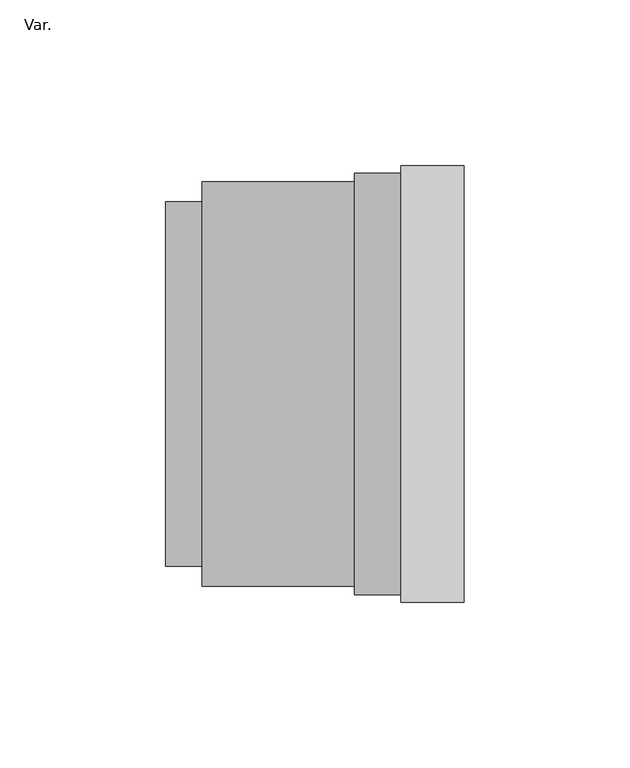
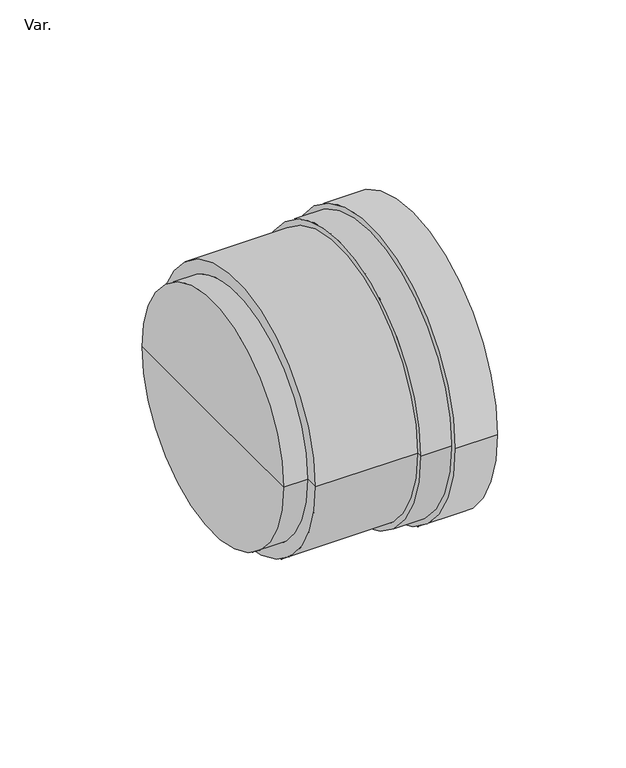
"""IFC4 building model written with IfcOpenShell, lengths in millimetres: pipe fitting geometry, NLRS_52_PIF_UN_HDPE snap socket_Akatherm : Var.."""

from ifc_helpers import new_model, si_unit, point, frame, origin, origin_2d, place, context, project, spatial, circle_curve, trimmed, segment, composite_curve, outline, extrude, source, transform, mapped, element, save
from ifc_brep_helpers import plane_surface, cylinder_surface, advanced_brep


def var_c57503f9(model_context):
    return source(origin(), model_context, "Body", "SolidModel", [
        extrude(outline(composite_curve([segment(trimmed(circle_curve(origin_2d(), 65.75), [point((-65.75, 0.0))], [point((65.75, 0.0))], False, "CARTESIAN"), True, "CONTINUOUS"), segment(trimmed(circle_curve(origin_2d(), 65.75), [point((65.75, 0.0))], [point((-65.75, 0.0))], False, "CARTESIAN"), True, "CONTINUOUS")], self_intersect=False)), frame((61.0, 0.0, 0.0), z_axis=(1.0, 0.0, 0.0), x_axis=(0.0, 1.0, 0.0)), (0.0, 0.0, 1.0), 19.0),
        advanced_brep(
        [(-10.0, 0.0, 0.0), (-10.0, 55.0, 0.0), (-10.0, -55.0, 0.0), (80.0, -63.5, 0.0), (80.0, 63.5, 0.0), (80.0, 0.0, 0.0), (47.0, -63.5, 0.0), (47.0, 63.5, 0.0), (47.0, -61.0, 0.0), (47.0, 61.0, 0.0), (1.0, -61.0, 0.0), (1.0, 61.0, 0.0), (1.0, -55.0, 0.0), (1.0, 55.0, 0.0)],
        [
            (0, 1),
            (1, 2, circle_curve(frame((-10.0, 0.0, 0.0), z_axis=(-1.0, 0.0, 0.0), x_axis=(0.0, 1.0, 0.0)), 55.0)),
            (2, 0),
            (2, 1, circle_curve(frame((-10.0, 0.0, 0.0), z_axis=(-1.0, 0.0, 0.0), x_axis=(0.0, 1.0, 0.0)), 55.0)),
            (3, 4, circle_curve(frame((80.0, 0.0, 0.0), z_axis=(1.0, 0.0, 0.0), x_axis=(0.0, 1.0, 0.0)), 63.5)),
            (4, 5),
            (5, 3),
            (4, 3, circle_curve(frame((80.0, 0.0, 0.0), z_axis=(1.0, 0.0, 0.0), x_axis=(0.0, 1.0, 0.0)), 63.5)),
            (6, 7, circle_curve(frame((47.0, 0.0, 0.0), z_axis=(1.0, 0.0, 0.0), x_axis=(0.0, 1.0, 0.0)), 63.5)),
            (7, 4),
            (3, 6),
            (7, 6, circle_curve(frame((47.0, 0.0, 0.0), z_axis=(1.0, 0.0, 0.0), x_axis=(0.0, 1.0, 0.0)), 63.5)),
            (8, 9, circle_curve(frame((47.0, 0.0, 0.0), z_axis=(1.0, 0.0, 0.0), x_axis=(0.0, 1.0, 0.0)), 61.0)),
            (9, 7),
            (6, 8),
            (9, 8, circle_curve(frame((47.0, 0.0, 0.0), z_axis=(1.0, 0.0, 0.0), x_axis=(0.0, 1.0, 0.0)), 61.0)),
            (10, 11, circle_curve(frame((1.0, 0.0, 0.0), z_axis=(1.0, 0.0, 0.0), x_axis=(0.0, 1.0, 0.0)), 61.0)),
            (11, 9),
            (8, 10),
            (11, 10, circle_curve(frame((1.0, 0.0, 0.0), z_axis=(1.0, 0.0, 0.0), x_axis=(0.0, 1.0, 0.0)), 61.0)),
            (12, 13, circle_curve(frame((1.0, 0.0, 0.0), z_axis=(1.0, 0.0, 0.0), x_axis=(0.0, 1.0, 0.0)), 55.0)),
            (13, 11),
            (10, 12),
            (13, 12, circle_curve(frame((1.0, 0.0, 0.0), z_axis=(1.0, 0.0, 0.0), x_axis=(0.0, 1.0, 0.0)), 55.0)),
            (1, 13),
            (12, 2),
        ],
        [
            plane_surface(frame((-10.0, 0.0, 0.0), z_axis=(-1.0, 0.0, 0.0), x_axis=(0.0, 1.0, 0.0))),
            plane_surface(frame((80.0, 0.0, 0.0), z_axis=(1.0, 0.0, 0.0), x_axis=(0.0, 1.0, 0.0))),
            cylinder_surface(frame((-100.0, 0.0, 0.0), z_axis=(-1.0, 0.0, 0.0), x_axis=(0.0, 1.0, 0.0)), 63.5),
            plane_surface(frame((47.0, 0.0, 0.0), z_axis=(-1.0, 0.0, 0.0), x_axis=(0.0, 1.0, 0.0))),
            cylinder_surface(frame((-100.0, 0.0, 0.0), z_axis=(-1.0, 0.0, 0.0), x_axis=(0.0, 1.0, 0.0)), 61.0),
            plane_surface(frame((1.0, 0.0, 0.0), z_axis=(-1.0, 0.0, 0.0), x_axis=(0.0, 1.0, 0.0))),
            cylinder_surface(frame((-100.0, 0.0, 0.0), z_axis=(-1.0, 0.0, 0.0), x_axis=(0.0, 1.0, 0.0)), 55.0),
        ],
        [
            (0, [[1, 2, 3]]),
            (0, [[-3, 4, -1]]),
            (1, [[5, 6, 7]]),
            (1, [[8, -7, -6]]),
            (2, [[9, 10, -5, 11]]),
            (2, [[12, -11, -8, -10]]),
            (3, [[13, 14, -9, 15]]),
            (3, [[16, -15, -12, -14]]),
            (4, [[17, 18, -13, 19]]),
            (4, [[20, -19, -16, -18]]),
            (5, [[21, 22, -17, 23]]),
            (5, [[24, -23, -20, -22]]),
            (6, [[-2, 25, -21, 26]]),
            (6, [[-4, -26, -24, -25]]),
        ],
    ),
    ])


if __name__ == "__main__":
    model = new_model("IFC4")
    model_context = context("Model", 3, world=origin())
    ifc_project = project(units=[si_unit("LENGTHUNIT", "METRE", prefix="MILLI")], contexts=[model_context])
    site = spatial("IfcSite", under=ifc_project)
    building = spatial("IfcBuilding", under=site)
    placement = place(None, origin())
    var_shape = var_c57503f9(model_context)
    element("IfcPipeFitting", 1, ObjectType="NLRS_52_PIF_UN_HDPE snap socket_Akatherm : Var.", at=placement, inside=building, context=model_context, shape_type="MappedRepresentation", body=[
        mapped(var_shape, transform((0.0, 0.0, 0.0), x_axis=(1.0, 0.0, 0.0), y_axis=(0.0, 1.0, 0.0), z_axis=(0.0, 0.0, 1.0))),
    ])
    save(model, "model.ifc")
